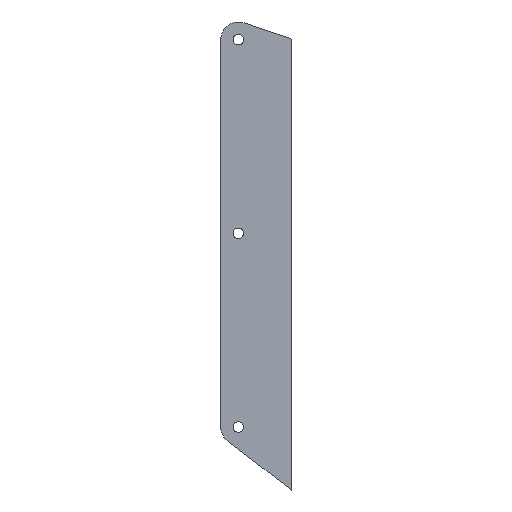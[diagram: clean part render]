
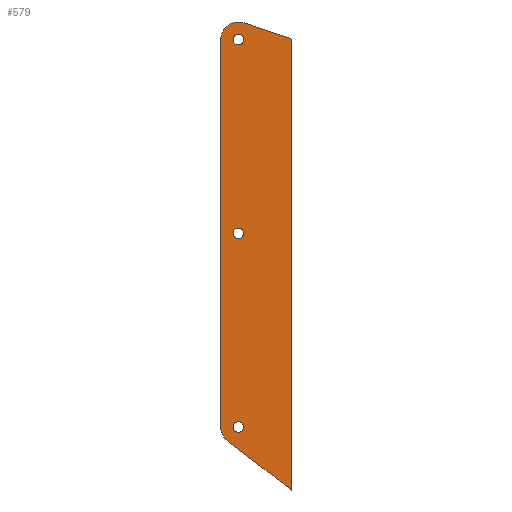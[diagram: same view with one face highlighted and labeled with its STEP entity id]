
A CAD part, top view. The second image highlights one B-rep face of the part: STEP entity #579.
In plain terms, the highlighted planar face has unit normal (0, 0, 1).
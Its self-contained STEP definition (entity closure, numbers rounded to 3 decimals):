
#267=PLANE('',#561);
#269=CIRCLE('',#547,15.);
#271=CIRCLE('',#551,15.);
#275=CIRCLE('',#560,4.5);
#276=CIRCLE('',#562,4.5);
#277=CIRCLE('',#563,4.5);
#313=ORIENTED_EDGE('',*,*,#375,.T.);
#314=ORIENTED_EDGE('',*,*,#389,.F.);
#315=ORIENTED_EDGE('',*,*,#387,.F.);
#316=ORIENTED_EDGE('',*,*,#384,.F.);
#317=ORIENTED_EDGE('',*,*,#381,.T.);
#318=ORIENTED_EDGE('',*,*,#378,.F.);
#319=ORIENTED_EDGE('',*,*,#393,.F.);
#320=ORIENTED_EDGE('',*,*,#394,.F.);
#321=ORIENTED_EDGE('',*,*,#395,.F.);
#330=VECTOR('',#448,1.);
#334=VECTOR('',#460,1.);
#337=VECTOR('',#465,1.);
#339=VECTOR('',#469,1.);
#344=LINE('',#506,#330);
#348=LINE('',#518,#334);
#351=LINE('',#524,#337);
#353=LINE('',#527,#339);
#355=VERTEX_POINT('',#494);
#357=VERTEX_POINT('',#498);
#359=VERTEX_POINT('',#503);
#361=VERTEX_POINT('',#509);
#363=VERTEX_POINT('',#515);
#365=VERTEX_POINT('',#521);
#369=VERTEX_POINT('',#536);
#370=VERTEX_POINT('',#539);
#371=VERTEX_POINT('',#541);
#375=EDGE_CURVE('',#355,#357,#269,.T.);
#378=EDGE_CURVE('',#355,#359,#344,.T.);
#381=EDGE_CURVE('',#361,#359,#271,.T.);
#384=EDGE_CURVE('',#361,#363,#348,.T.);
#387=EDGE_CURVE('',#363,#365,#351,.T.);
#389=EDGE_CURVE('',#365,#357,#353,.T.);
#393=EDGE_CURVE('',#369,#369,#275,.T.);
#394=EDGE_CURVE('',#370,#370,#276,.T.);
#395=EDGE_CURVE('',#371,#371,#277,.T.);
#408=EDGE_LOOP('',(#313,#314,#315,#316,#317,#318));
#409=EDGE_LOOP('',(#319));
#410=EDGE_LOOP('',(#320));
#411=EDGE_LOOP('',(#321));
#428=FACE_BOUND('',#408,.T.);
#429=FACE_BOUND('',#409,.T.);
#430=FACE_BOUND('',#410,.T.);
#431=FACE_BOUND('',#411,.T.);
#442=DIRECTION('',(0.,0.,1.));
#443=DIRECTION('',(0.,15.,0.));
#448=DIRECTION('',(0.,329.684,0.));
#454=DIRECTION('',(0.,0.,1.));
#455=DIRECTION('',(0.,15.,0.));
#460=DIRECTION('',(40.166,-13.674,0.));
#465=DIRECTION('',(0.,-383.797,0.));
#469=DIRECTION('',(-54.152,41.703,0.));
#480=DIRECTION('',(0.,0.,1.));
#481=DIRECTION('',(0.,-4.5,0.));
#482=DIRECTION('',(0.,0.,1.));
#483=DIRECTION('',(0.,-1.,0.));
#484=DIRECTION('',(0.,0.,1.));
#485=DIRECTION('',(0.,-4.5,0.));
#486=DIRECTION('',(0.,0.,1.));
#487=DIRECTION('',(0.,-4.5,0.));
#494=CARTESIAN_POINT('',(7724.504,13209.739,8.));
#498=CARTESIAN_POINT('',(7730.351,13197.854,8.));
#500=CARTESIAN_POINT('',(7739.504,13209.739,8.));
#503=CARTESIAN_POINT('',(7724.504,13539.423,8.));
#506=CARTESIAN_POINT('',(7724.504,13209.739,8.));
#509=CARTESIAN_POINT('',(7744.338,13553.622,8.));
#512=CARTESIAN_POINT('',(7739.504,13539.423,8.));
#515=CARTESIAN_POINT('',(7784.504,13539.949,8.));
#518=CARTESIAN_POINT('',(7744.338,13553.622,8.));
#521=CARTESIAN_POINT('',(7784.504,13156.152,8.));
#524=CARTESIAN_POINT('',(7784.504,13539.949,8.));
#527=CARTESIAN_POINT('',(7784.504,13156.152,8.));
#536=CARTESIAN_POINT('',(7739.504,13205.239,8.));
#537=CARTESIAN_POINT('',(7739.504,13209.739,8.));
#538=CARTESIAN_POINT('',(0.,0.,8.));
#539=CARTESIAN_POINT('',(7739.504,13534.923,8.));
#540=CARTESIAN_POINT('',(7739.504,13539.423,8.));
#541=CARTESIAN_POINT('',(7739.504,13370.081,8.));
#542=CARTESIAN_POINT('',(7739.504,13374.581,8.));
#547=AXIS2_PLACEMENT_3D('',#500,#442,#443);
#551=AXIS2_PLACEMENT_3D('',#512,#454,#455);
#560=AXIS2_PLACEMENT_3D('',#537,#480,#481);
#561=AXIS2_PLACEMENT_3D('',#538,#482,#483);
#562=AXIS2_PLACEMENT_3D('',#540,#484,#485);
#563=AXIS2_PLACEMENT_3D('',#542,#486,#487);
#579=ADVANCED_FACE('',(#428,#429,#430,#431),#267,.T.);
